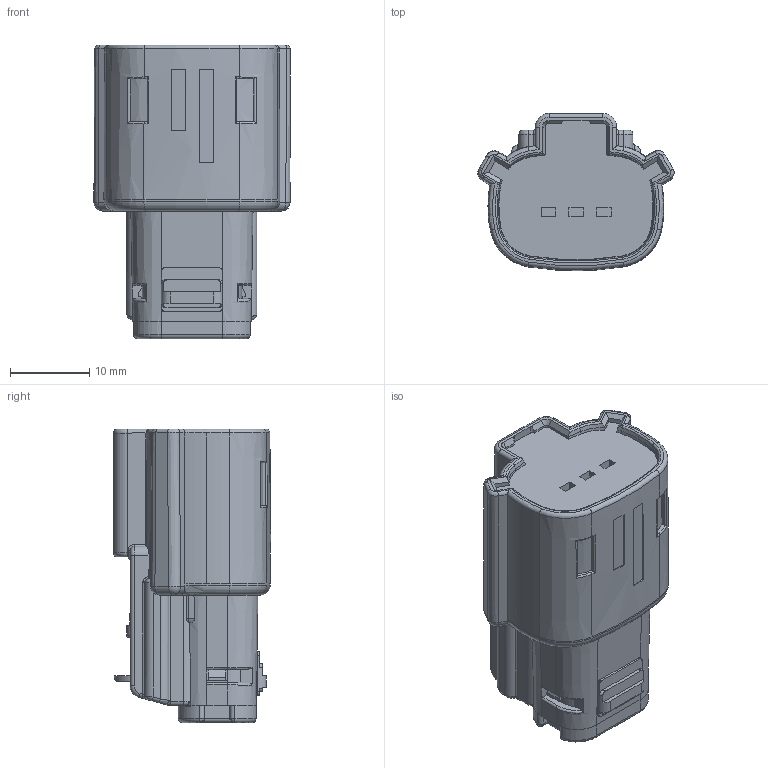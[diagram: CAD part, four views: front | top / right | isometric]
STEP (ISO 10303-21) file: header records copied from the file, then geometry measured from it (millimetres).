
FILE_DESCRIPTION((''),'2;1');
FILE_NAME('334710306','2015-05-05T',('me'),(''),'PRO/ENGINEER BY PARAMETRIC TECHNOLOGY CORPORATION, 2011490','PRO/ENGINEER BY PARAMETRIC TECHNOLOGY CORPORATION, 2011490','');
FILE_SCHEMA(('CONFIG_CONTROL_DESIGN'));
Length unit declared in the file: millimetre
Products named in the file (1): 334710306
Bounding box: 24.71 x 19.77 x 37 mm (x, y, z)
Volume: 8415.9 mm3; surface area: 6409 mm2
Topology: 2 solids, 3 shells, 1198 faces, 3240 edges, 2018 vertices
Faces by surface type: plane 574, cylinder 265, cone 143, torus 122, bspline 77, sphere 11, extrusion 6
Entity records: 43839 total; most frequent: CARTESIAN_POINT 14745, ORIENTED_EDGE 6436, DIRECTION 5590, EDGE_CURVE 3218, VERTEX_POINT 2016, AXIS2_PLACEMENT_3D 1871, VECTOR 1848, LINE 1842
